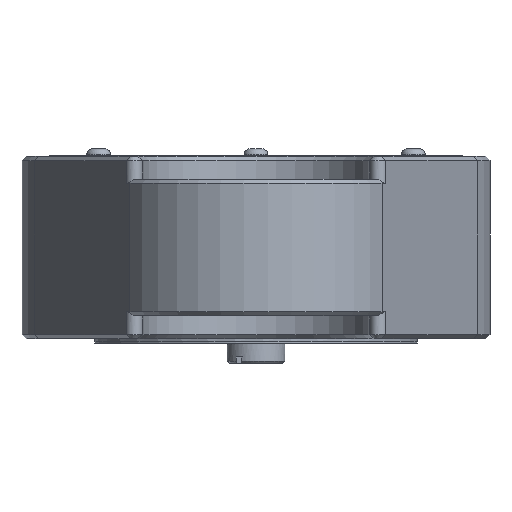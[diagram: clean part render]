
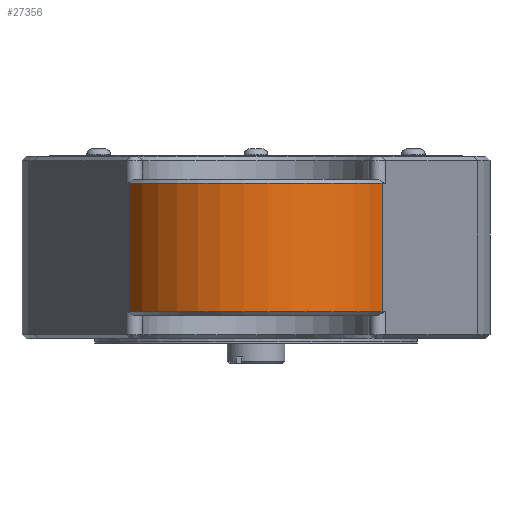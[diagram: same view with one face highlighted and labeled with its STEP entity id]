
A CAD part, left-side view. The second image highlights one B-rep face of the part: STEP entity #27356.
In plain terms, the highlighted cylindrical face has radius 34 mm (diameter 68 mm), a partial arc.
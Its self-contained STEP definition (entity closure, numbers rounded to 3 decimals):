
#1075=CYLINDRICAL_SURFACE('',#29051,34.);
#1614=LINE('',#37697,#4359);
#1615=LINE('',#37698,#4360);
#4359=VECTOR('',#31360,10.);
#4360=VECTOR('',#31361,10.);
#7994=FACE_OUTER_BOUND('',#9498,.T.);
#9498=EDGE_LOOP('',(#18825,#18826,#18827,#18828));
#11077=CIRCLE('',#28990,34.);
#11101=CIRCLE('',#29032,34.);
#11687=VERTEX_POINT('',#37442);
#11688=VERTEX_POINT('',#37446);
#11729=VERTEX_POINT('',#37596);
#11730=VERTEX_POINT('',#37597);
#14405=EDGE_CURVE('',#11687,#11688,#11077,.T.);
#14463=EDGE_CURVE('',#11729,#11730,#11101,.T.);
#14491=EDGE_CURVE('',#11729,#11687,#1614,.T.);
#14492=EDGE_CURVE('',#11688,#11730,#1615,.T.);
#18825=ORIENTED_EDGE('',*,*,#14405,.F.);
#18826=ORIENTED_EDGE('',*,*,#14491,.F.);
#18827=ORIENTED_EDGE('',*,*,#14463,.T.);
#18828=ORIENTED_EDGE('',*,*,#14492,.F.);
#27356=ADVANCED_FACE('',(#7994),#1075,.T.);
#28990=AXIS2_PLACEMENT_3D('',#37447,#31200,#31201);
#29032=AXIS2_PLACEMENT_3D('',#37598,#31312,#31313);
#29051=AXIS2_PLACEMENT_3D('',#37696,#31358,#31359);
#31200=DIRECTION('center_axis',(0.,0.,1.));
#31201=DIRECTION('ref_axis',(-1.,0.,0.));
#31312=DIRECTION('center_axis',(0.,0.,1.));
#31313=DIRECTION('ref_axis',(-1.,0.,0.));
#31358=DIRECTION('center_axis',(0.,0.,-1.));
#31359=DIRECTION('ref_axis',(-1.,0.,0.));
#31360=DIRECTION('',(0.,0.,1.));
#31361=DIRECTION('',(0.,0.,-1.));
#37442=CARTESIAN_POINT('',(-93.171,30.428,37.5));
#37446=CARTESIAN_POINT('',(-93.171,-30.428,37.5));
#37447=CARTESIAN_POINT('Origin',(-78.,0.,37.5));
#37596=CARTESIAN_POINT('',(-93.171,30.428,6.5));
#37597=CARTESIAN_POINT('',(-93.171,-30.428,6.5));
#37598=CARTESIAN_POINT('Origin',(-78.,0.,6.5));
#37696=CARTESIAN_POINT('Origin',(-78.,0.,44.));
#37697=CARTESIAN_POINT('',(-93.171,30.428,0.));
#37698=CARTESIAN_POINT('',(-93.171,-30.428,44.));
